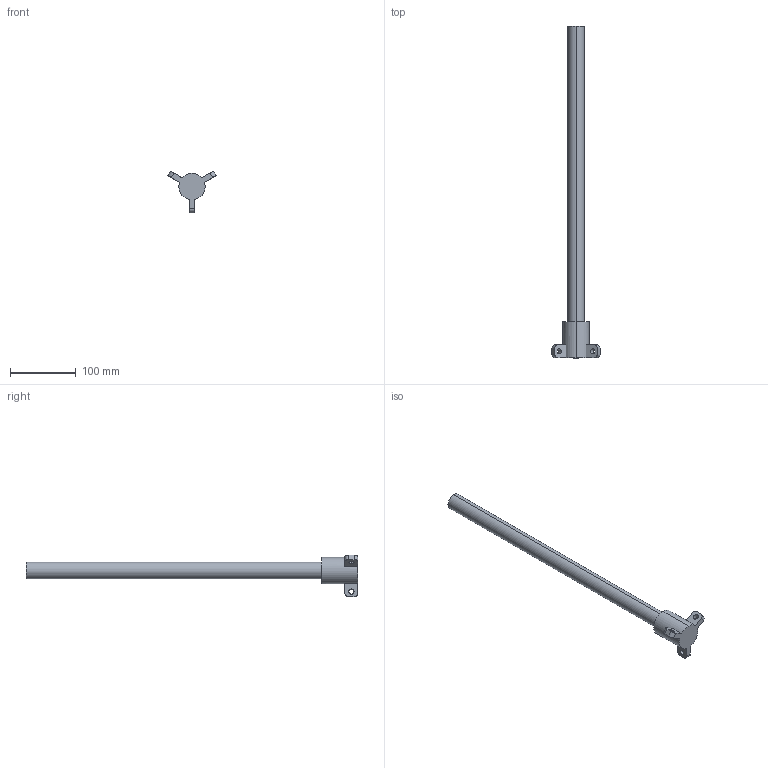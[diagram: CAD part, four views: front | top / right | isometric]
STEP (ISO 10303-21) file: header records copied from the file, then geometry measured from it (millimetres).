
FILE_DESCRIPTION (( 'STEP AP203' ), '1' );
FILE_NAME ('CENTER PIECE.STEP', '2020-08-13T18:25:21', ( 'user' ), ( '' ), 'SwSTEP 2.0', 'SolidWorks 2018', '' );
FILE_SCHEMA (( 'CONFIG_CONTROL_DESIGN' ));
Length unit declared in the file: millimetre
Products named in the file (1): CENTER PIECE
Bounding box: 73.28 x 505 x 63.46 mm (x, y, z)
Volume: 298095.5 mm3; surface area: 48264.6 mm2
Topology: 1 solids, 1 shells, 31 faces, 84 edges, 56 vertices
Faces by surface type: cylinder 16, plane 15
Entity records: 1085 total; most frequent: DIRECTION 186, CARTESIAN_POINT 172, ORIENTED_EDGE 168, EDGE_CURVE 84, AXIS2_PLACEMENT_3D 70, VERTEX_POINT 56, VECTOR 46, LINE 46
